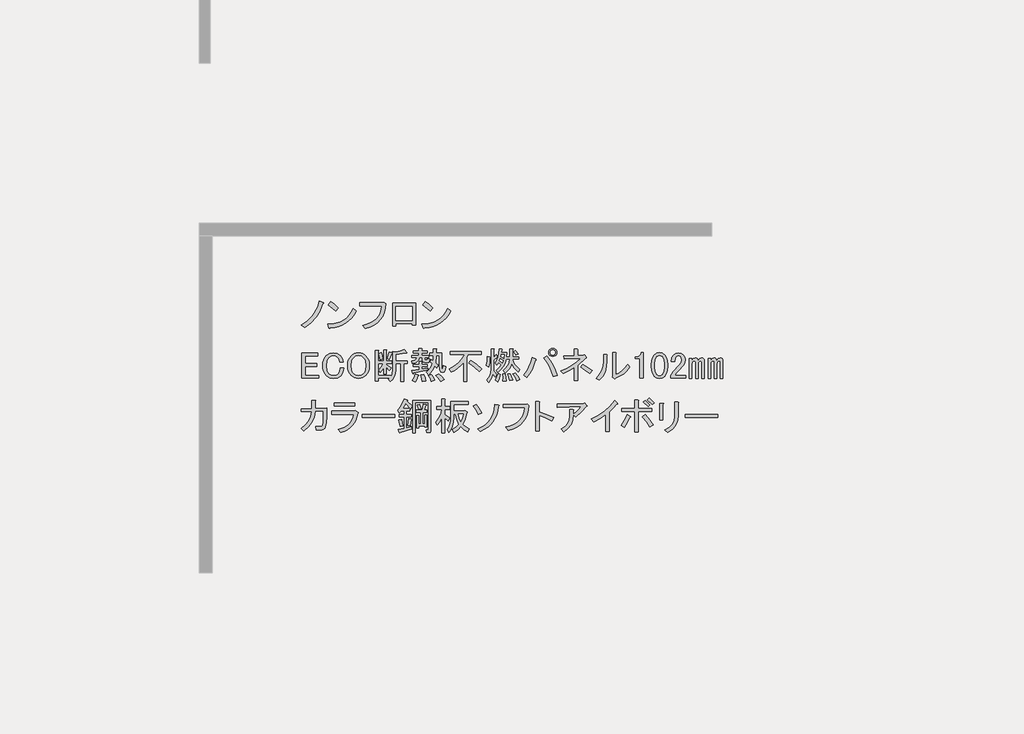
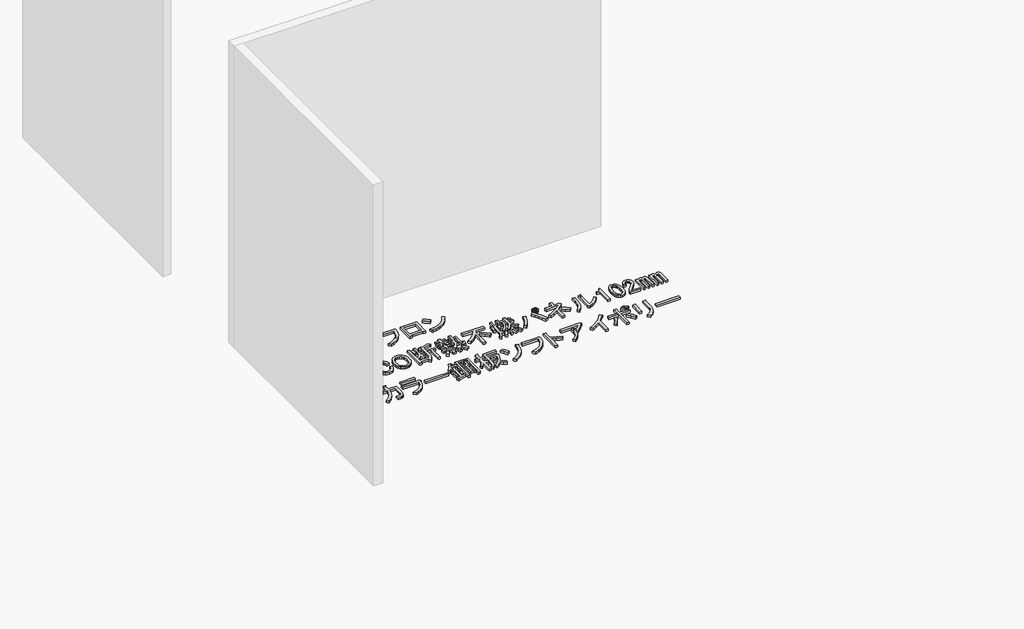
# One storey, part 50 of 117: 1 proxy.
"""IFC4 building model written with IfcOpenShell, lengths in millimetres."""

from ifc_helpers import new_model, si_unit, frame, origin, place, context, project, spatial, polyline, outline, extrude, element, save

model = new_model("IFC4")

# Units and contexts
model_context = context("Model", 3, world=origin())
ifc_project = project(units=[si_unit("LENGTHUNIT", "METRE", prefix="MILLI")], contexts=[model_context])

# Site, building, storey
site = spatial("IfcSite", under=ifc_project)
building = spatial("IfcBuilding", under=site)
storey = spatial("IfcBuildingStorey", under=building, Name="レベル 1", Elevation=500.0)

# Proxy
placement = place(None, origin())
element("IfcBuildingElementProxy", 1, Name="200㎜\u3000MS Pゴシック", ObjectType="200㎜\u3000MS Pゴシック", at=placement, inside=storey, context=model_context, shape_type="SweptSolid", body=[
    extrude(outline(polyline([(24972.6706985, -4636.0496882), (24947.0952502, -4695.8215225), (24918.646156, -4741.7998566), (24876.9782907, -4787.2034615), (24827.8389462, -4824.560858), (24800.2519457, -4802.7211493), (24847.9544673, -4772.2605029), (24887.6107805, -4733.7536481), (24904.9963381, -4709.8305462), (24920.3703435, -4681.7406577), (24933.7327969, -4649.4839827), (24945.0836981, -4613.0605212), (24976.1190736, -4626.8540214), (24979.2800841, -4631.4518548), (24972.6706985, -4636.0496882)])), frame((0.0, 0.0, 500.0), z_axis=(0.0, 0.0, 1.0), x_axis=(1.0, 0.0, 0.0)), (0.0, 0.0, 1.0), 25.0),
    extrude(outline(polyline([(25072.3977052, -4691.2236891), (25013.7753292, -4644.0958967), (25033.3161212, -4619.9572713), (25060.6157571, -4639.7854279), (25094.2374138, -4669.3839804), (25072.3977052, -4691.2236891)])), frame((0.0, 0.0, 500.0), z_axis=(0.0, 0.0, 1.0), x_axis=(1.0, 0.0, 0.0)), (0.0, 0.0, 1.0), 25.0),
    extrude(outline(polyline([(25234.4713328, -4691.2236891), (25217.947869, -4720.965924), (25198.8381239, -4746.9724192), (25177.1420975, -4769.2431748), (25152.8597898, -4787.7781907), (25125.9912008, -4802.577467), (25096.5363306, -4813.6410036), (25064.495179, -4820.9688006), (25029.8677461, -4824.560858), (25024.1204544, -4832.6070664), (25018.3731626, -4826.8597747), (25009.1774958, -4796.9738575), (25045.0082679, -4794.2977748), (25077.7857912, -4787.9937141), (25107.5100658, -4778.0616756), (25134.1810916, -4764.5016591), (25157.7988687, -4747.3136646), (25178.363397, -4726.4976923), (25195.8746766, -4702.053742), (25210.3327074, -4673.9818138), (25234.4713328, -4691.2236891)])), frame((0.0, 0.0, 500.0), z_axis=(0.0, 0.0, 1.0), x_axis=(1.0, 0.0, 0.0)), (0.0, 0.0, 1.0), 25.0),
    extrude(outline(polyline([(25285.2314136, -4806.1695243), (25319.014713, -4796.4889298), (25348.5234641, -4784.1142922), (25373.757667, -4769.0456116), (25394.7173217, -4751.282888), (25411.402428, -4730.8261214), (25423.8129862, -4707.6753118), (25431.9489961, -4681.8304591), (25435.8104577, -4653.2915635), (25263.3917049, -4653.2915635), (25263.3917049, -4628.0034798), (25438.1093744, -4628.0034798), (25454.2017914, -4624.5551047), (25466.8458332, -4636.0496882), (25463.325617, -4672.5449909), (25455.0638851, -4705.5919185), (25442.0606375, -4735.1904711), (25424.3158742, -4761.3406486), (25401.8295952, -4784.042451), (25374.6018005, -4803.2958784), (25342.6324901, -4819.1009308), (25305.921664, -4831.4576081), (25285.2314136, -4806.1695243)])), frame((0.0, 0.0, 500.0), z_axis=(0.0, 0.0, 1.0), x_axis=(1.0, 0.0, 0.0)), (0.0, 0.0, 1.0), 25.0),
    extrude(outline(polyline([(25699.955987, -4805.020066), (25673.5184449, -4805.020066), (25673.5184449, -4792.3760241), (25545.9285679, -4792.3760241), (25545.9285679, -4810.7673577), (25519.4910258, -4810.7673577), (25519.4910258, -4631.4518548), (25699.955987, -4631.4518548), (25699.955987, -4805.020066)]), holes=[polyline([(25545.9285679, -4656.7399386), (25545.9285679, -4767.0879404), (25673.5184449, -4767.0879404), (25673.5184449, -4656.7399386), (25545.9285679, -4656.7399386)])]), frame((0.0, 0.0, 500.0), z_axis=(0.0, 0.0, 1.0), x_axis=(1.0, 0.0, 0.0)), (0.0, 0.0, 1.0), 25.0),
    extrude(outline(polyline([(25976.0099049, -4691.2236891), (25959.4864411, -4720.965924), (25940.376696, -4746.9724192), (25918.6806696, -4769.2431748), (25894.3983619, -4787.7781907), (25867.5297729, -4802.577467), (25838.0749026, -4813.6410036), (25806.0337511, -4820.9688006), (25771.4063182, -4824.560858), (25765.6590264, -4832.6070664), (25759.9117347, -4826.8597747), (25750.7160679, -4796.9738575), (25786.5468399, -4794.2977748), (25819.3243633, -4787.9937141), (25849.0486378, -4778.0616756), (25875.7196637, -4764.5016591), (25899.3374407, -4747.3136646), (25919.9019691, -4726.4976923), (25937.4132486, -4702.053742), (25951.8712795, -4673.9818138), (25976.0099049, -4691.2236891)])), frame((0.0, 0.0, 500.0), z_axis=(0.0, 0.0, 1.0), x_axis=(1.0, 0.0, 0.0)), (0.0, 0.0, 1.0), 25.0),
    extrude(outline(polyline([(25813.9362772, -4691.2236891), (25755.3139013, -4644.0958967), (25774.8546933, -4619.9572713), (25802.1543291, -4639.7854279), (25835.7759859, -4669.3839804), (25813.9362772, -4691.2236891)])), frame((0.0, 0.0, 500.0), z_axis=(0.0, 0.0, 1.0), x_axis=(1.0, 0.0, 0.0)), (0.0, 0.0, 1.0), 25.0),
    extrude(outline(polyline([(24805.9992375, -5024.5551047), (24932.4396562, -5024.5551047), (24932.4396562, -5046.3948134), (24832.4367796, -5046.3948134), (24832.4367796, -5107.316106), (24925.5429061, -5107.316106), (24925.5429061, -5129.1558147), (24832.4367796, -5129.1558147), (24832.4367796, -5199.2727742), (24938.186948, -5199.2727742), (24938.186948, -5221.1124829), (24805.9992375, -5221.1124829), (24805.9992375, -5024.5551047)])), frame((0.0, 0.0, 500.0), z_axis=(0.0, 0.0, 1.0), x_axis=(1.0, 0.0, 0.0)), (0.0, 0.0, 1.0), 25.0),
    extrude(outline(polyline([(24970.2798252, -5123.408523), (24972.0758538, -5099.485421), (24977.4639399, -5078.2922827), (24986.4440832, -5059.8291079), (24999.016284, -5044.0958967), (25024.0170031, -5027.7161152), (25055.3397432, -5022.256188), (25086.0877541, -5027.141386), (25109.3642858, -5041.79698), (25125.1693381, -5065.3608762), (25131.2039944, -5094.6720642), (25103.616994, -5094.6720642), (25098.731796, -5073.4070847), (25088.6740354, -5057.8893969), (25073.4437123, -5047.5442717), (25055.3397432, -5044.0958967), (25035.7989512, -5048.1190009), (25018.5570759, -5060.1883136), (25009.5050914, -5071.8984206), (25003.0393882, -5086.3384911), (24997.8668256, -5123.408523), (25003.0393882, -5160.4785548), (25009.5050914, -5174.9186254), (25018.5570759, -5186.6287323), (25035.2242221, -5197.8359513), (25055.3397432, -5201.5716909), (25075.742629, -5198.4106804), (25090.9729521, -5188.927649), (25103.0422648, -5169.3868571), (25107.0653691, -5142.949315), (25134.6523695, -5142.949315), (25128.3303486, -5177.7204301), (25121.2899162, -5191.8731361), (25111.6632025, -5203.8706076), (25100.8151893, -5212.4197041), (25087.8119417, -5218.5262016), (25055.3397432, -5223.4113996), (25024.0170031, -5217.9514724), (24999.016284, -5201.5716909), (24986.4440832, -5185.9103209), (24977.4639399, -5167.6626695), (24972.0758538, -5146.8287369), (24970.2798252, -5123.408523)])), frame((0.0, 0.0, 500.0), z_axis=(0.0, 0.0, 1.0), x_axis=(1.0, 0.0, 0.0)), (0.0, 0.0, 1.0), 25.0),
    extrude(outline(polyline([(25165.6417667, -5122.2590646), (25167.3659542, -5099.4135799), (25172.5385168, -5079.1543764), (25181.1594544, -5061.4814543), (25193.2287671, -5046.3948134), (25205.9446501, -5035.8341648), (25219.9536738, -5028.2908443), (25235.2558381, -5023.7648521), (25251.8511431, -5022.256188), (25268.446448, -5023.7648521), (25283.7486123, -5028.2908443), (25297.757636, -5035.8341648), (25310.473519, -5046.3948134), (25322.5428317, -5061.4814543), (25331.1637694, -5079.1543764), (25336.336332, -5099.4135799), (25338.0605195, -5122.2590646), (25336.336332, -5145.1045494), (25331.1637694, -5165.3637528), (25322.5428317, -5183.036675), (25310.473519, -5198.1233159), (25297.757636, -5208.6839645), (25283.7486123, -5216.2272849), (25268.446448, -5220.7532772), (25251.8511431, -5222.2619413), (25235.2558381, -5220.7532772), (25219.9536738, -5216.2272849), (25205.9446501, -5208.6839645), (25193.2287671, -5198.1233159), (25181.1594544, -5183.036675), (25172.5385168, -5165.3637528), (25167.3659542, -5145.1045494), (25165.6417667, -5122.2590646)]), holes=[polyline([(25251.8511431, -5044.0958967), (25231.1608927, -5048.4063655), (25212.7695591, -5061.337772), (25204.2204626, -5072.4731498), (25198.1139651, -5086.3384911), (25193.2287671, -5122.2590646), (25198.1139651, -5158.1796381), (25204.2204626, -5172.0449795), (25212.7695591, -5183.1803573), (25231.1608927, -5196.1117637), (25251.8511431, -5200.4222326), (25272.5413934, -5196.1117637), (25290.932727, -5183.1803573), (25299.4818235, -5172.0449795), (25305.588321, -5158.1796381), (25310.473519, -5122.2590646), (25305.588321, -5086.3384911), (25299.4818235, -5072.4731498), (25290.932727, -5061.337772), (25272.5413934, -5048.4063655), (25251.8511431, -5044.0958967)])]), frame((0.0, 0.0, 500.0), z_axis=(0.0, 0.0, 1.0), x_axis=(1.0, 0.0, 0.0)), (0.0, 0.0, 1.0), 25.0),
    extrude(outline(polyline([(25476.8691101, -5068.2345221), (25494.1109854, -5015.3594379), (25514.8012357, -5021.1067296), (25516.5254232, -5024.2677401), (25512.502319, -5026.8540214), (25495.2604437, -5075.1312722), (25476.8691101, -5068.2345221)])), frame((0.0, 0.0, 500.0), z_axis=(0.0, 0.0, 1.0), x_axis=(1.0, 0.0, 0.0)), (0.0, 0.0, 1.0), 25.0),
    extrude(outline(polyline([(25630.8965292, -5019.9572713), (25629.1723417, -5024.5551047), (25621.7008624, -5022.256188), (25544.6871528, -5034.9002299), (25544.6871528, -5084.326939), (25636.643821, -5084.326939), (25636.643821, -5106.1666477), (25605.6084455, -5106.1666477), (25605.6084455, -5246.4005666), (25582.6192785, -5246.4005666), (25582.6192785, -5106.1666477), (25544.6871528, -5106.1666477), (25544.6871528, -5155.5933568), (25542.1008716, -5183.3958807), (25534.3420277, -5208.1810764), (25521.4106212, -5229.948944), (25503.3066522, -5248.6994833), (25486.0647769, -5229.1586914), (25496.4099021, -5219.9630245), (25406.7521506, -5219.9630245), (25406.7521506, -5241.8027332), (25383.7629836, -5241.8027332), (25383.7629836, -5002.715396), (25405.6026922, -5002.715396), (25410.4878902, -5005.0143127), (25406.7521506, -5009.6121461), (25406.7521506, -5085.4763974), (25449.2821096, -5085.4763974), (25449.2821096, -4998.1175626), (25467.6734433, -4998.1175626), (25472.5586413, -5000.4164793), (25468.8229016, -5005.0143127), (25468.8229016, -5085.4763974), (25512.502319, -5085.4763974), (25512.502319, -5103.867731), (25468.8229016, -5103.867731), (25468.8229016, -5113.0633978), (25509.0539439, -5139.5009399), (25495.2604437, -5161.3406486), (25468.8229016, -5134.9031065), (25468.8229016, -5187.7781907), (25449.2821096, -5187.7781907), (25449.2821096, -5139.5009399), (25436.0633386, -5159.3290965), (25421.6951092, -5175.1341488), (25409.0510673, -5156.7428152), (25430.890776, -5132.6041898), (25448.1326513, -5103.867731), (25406.7521506, -5103.867731), (25406.7521506, -5198.1233159), (25504.4561105, -5198.1233159), (25504.4561105, -5211.9168161), (25517.387517, -5187.7781907), (25521.6979858, -5154.4438985), (25521.6979858, -5009.6121461), (25543.5376945, -5015.3594379), (25579.7456326, -5007.8879586), (25610.2062789, -4994.6691875), (25630.8965292, -5019.9572713)])), frame((0.0, 0.0, 500.0), z_axis=(0.0, 0.0, 1.0), x_axis=(1.0, 0.0, 0.0)), (0.0, 0.0, 1.0), 25.0),
    extrude(outline(polyline([(25422.8445675, -5076.2807305), (25410.2005257, -5025.7045631), (25429.7413176, -5018.8078129), (25437.5001615, -5042.9464383), (25442.3853595, -5069.3839804), (25422.8445675, -5076.2807305)])), frame((0.0, 0.0, 500.0), z_axis=(0.0, 0.0, 1.0), x_axis=(1.0, 0.0, 0.0)), (0.0, 0.0, 1.0), 25.0),
    extrude(outline(polyline([(25766.5326148, -5192.3760241), (25776.5903754, -5219.67566), (25781.4755734, -5241.8027332), (25752.7391146, -5247.550025), (25750.1528333, -5225.9976809), (25742.3939894, -5195.8243992), (25766.5326148, -5192.3760241)])), frame((0.0, 0.0, 500.0), z_axis=(0.0, 0.0, 1.0), x_axis=(1.0, 0.0, 0.0)), (0.0, 0.0, 1.0), 25.0),
    extrude(outline(polyline([(25822.856074, -5245.2511083), (25814.522501, -5220.5377537), (25801.0163654, -5199.2727742), (25821.7066157, -5191.2265657), (25838.6611264, -5212.7789098), (25850.4430745, -5236.0554415), (25822.856074, -5245.2511083)])), frame((0.0, 0.0, 500.0), z_axis=(0.0, 0.0, 1.0), x_axis=(1.0, 0.0, 0.0)), (0.0, 0.0, 1.0), 25.0),
    extrude(outline(polyline([(25721.7037391, -5196.9738575), (25725.1521141, -5201.8590555), (25719.4048224, -5205.020066), (25709.6344264, -5230.5955143), (25698.714572, -5249.8489417), (25675.725405, -5238.3543582), (25688.3694469, -5214.790462), (25698.714572, -5187.7781907), (25721.7037391, -5196.9738575)])), frame((0.0, 0.0, 500.0), z_axis=(0.0, 0.0, 1.0), x_axis=(1.0, 0.0, 0.0)), (0.0, 0.0, 1.0), 25.0),
    extrude(outline(polyline([(25753.8885729, -5060.1883136), (25728.6004892, -5060.1883136), (25724.0026558, -5077.6457123), (25713.6575306, -5090.9363245), (25697.5651137, -5100.0601502), (25675.725405, -5105.0171893), (25671.1275716, -5085.4763974), (25696.4156553, -5076.8554597), (25703.8871346, -5069.5276627), (25707.9102388, -5060.1883136), (25672.2770299, -5060.1883136), (25672.2770299, -5041.79698), (25726.3015725, -5041.79698), (25726.3015725, -5024.5551047), (25682.6221551, -5024.5551047), (25682.6221551, -5006.1637711), (25726.3015725, -5006.1637711), (25726.3015725, -4987.7724374), (25748.1412812, -4987.7724374), (25753.0264792, -4990.0713541), (25749.2907395, -4994.6691875), (25749.2907395, -5006.1637711), (25791.8206985, -5006.1637711), (25791.8206985, -5024.5551047), (25749.2907395, -5024.5551047), (25749.2907395, -5041.79698), (25802.1658237, -5041.79698), (25802.1658237, -5060.1883136), (25773.4293649, -5060.1883136), (25773.4293649, -5072.8323555), (25774.8661878, -5078.0049181), (25779.1766567, -5079.7291056), (25789.5217818, -5079.7291056), (25793.2575215, -5076.5680951), (25792.9701569, -5067.0850637), (25812.5109489, -5069.3839804), (25809.637303, -5090.9363245), (25804.3210581, -5096.3244106), (25796.4185319, -5098.1204392), (25772.2799066, -5098.1204392), (25758.4864063, -5093.2352412), (25753.8885729, -5078.5796472), (25753.8885729, -5060.1883136)])), frame((0.0, 0.0, 500.0), z_axis=(0.0, 0.0, 1.0), x_axis=(1.0, 0.0, 0.0)), (0.0, 0.0, 1.0), 25.0),
    extrude(outline(polyline([(25884.9268251, -5042.9464383), (25863.0871164, -5042.9464383), (25858.489283, -5100.4193559), (25878.0300749, -5118.8106896), (25867.6849498, -5140.6503983), (25851.5925328, -5124.5579813), (25832.3391054, -5162.2027424), (25802.1658237, -5194.6749408), (25784.9239484, -5173.9846905), (25800.0105893, -5162.0590601), (25813.085678, -5146.9724192), (25824.1492147, -5128.7247679), (25833.2011992, -5107.316106), (25815.9593239, -5092.3731475), (25824.0055324, -5075.1312722), (25837.7990326, -5085.4763974), (25840.0979493, -5042.9464383), (25812.5109489, -5042.9464383), (25812.5109489, -5024.5551047), (25840.0979493, -5024.5551047), (25840.0979493, -4990.0713541), (25861.937658, -4990.0713541), (25866.822856, -4992.3702708), (25863.0871164, -4996.9681043), (25863.0871164, -5024.5551047), (25904.467617, -5024.5551047), (25904.467617, -5121.1096063), (25907.9159921, -5145.2482317), (25911.1488437, -5147.2597838), (25913.9506484, -5144.0987733), (25918.2611173, -5122.2590646), (25937.8019092, -5129.1558147), (25933.275917, -5155.9525626), (25925.445232, -5171.9731384), (25914.3098542, -5177.2175421), (25899.8697836, -5171.6857738), (25893.3322393, -5164.3579768), (25888.6625647, -5152.719711), (25884.9268251, -5116.5117729), (25884.9268251, -5042.9464383)])), frame((0.0, 0.0, 500.0), z_axis=(0.0, 0.0, 1.0), x_axis=(1.0, 0.0, 0.0)), (0.0, 0.0, 1.0), 25.0),
    extrude(outline(polyline([(25683.7716134, -5182.0308989), (25681.7600613, -5186.9160969), (25678.0243217, -5185.479274), (25672.2770299, -5161.3406486), (25727.4510308, -5153.2944401), (25727.4510308, -5130.3052731), (25683.7716134, -5130.3052731), (25683.7716134, -5111.9139395), (25727.4510308, -5111.9139395), (25727.4510308, -5088.9247724), (25745.8423645, -5088.9247724), (25750.7275625, -5091.2236891), (25746.9918228, -5095.8215225), (25746.9918228, -5111.9139395), (25791.8206985, -5111.9139395), (25791.8206985, -5130.3052731), (25746.9918228, -5130.3052731), (25746.9918228, -5149.8460651), (25797.5679903, -5140.6503983), (25797.5679903, -5156.7428152), (25683.7716134, -5182.0308989)])), frame((0.0, 0.0, 500.0), z_axis=(0.0, 0.0, 1.0), x_axis=(1.0, 0.0, 0.0)), (0.0, 0.0, 1.0), 25.0),
    extrude(outline(polyline([(25881.47845, -5186.6287323), (25906.1918046, -5207.8937119), (25925.1578674, -5232.6070664), (25898.7203253, -5247.550025), (25879.4668979, -5217.9514724), (25860.7881997, -5198.1233159), (25881.47845, -5186.6287323)])), frame((0.0, 0.0, 500.0), z_axis=(0.0, 0.0, 1.0), x_axis=(1.0, 0.0, 0.0)), (0.0, 0.0, 1.0), 25.0),
    extrude(outline(polyline([(26199.8784135, -5170.5363154), (26160.7968295, -5132.3168252), (26119.4163289, -5102.7182726), (26135.5087458, -5082.0280223), (26179.1881632, -5110.1897519), (26220.5686638, -5148.6966067), (26199.8784135, -5170.5363154)])), frame((0.0, 0.0, 500.0), z_axis=(0.0, 0.0, 1.0), x_axis=(1.0, 0.0, 0.0)), (0.0, 0.0, 1.0), 25.0),
    extrude(outline(polyline([(25973.4351182, -5009.6121461), (26214.8213721, -5009.6121461), (26214.8213721, -5034.9002299), (26114.8184955, -5034.9002299), (26104.4733703, -5059.0388553), (26104.4733703, -5245.2511083), (26078.0358282, -5245.2511083), (26078.0358282, -5098.1204392), (26057.2018956, -5121.3969709), (26033.7816816, -5141.7998566), (26007.7751864, -5159.3290965), (25979.1824099, -5173.9846905), (25963.089993, -5147.5471484), (26002.674465, -5127.1442626), (26036.3679629, -5101.5688143), (26064.1704868, -5070.8208034), (26086.0820367, -5034.9002299), (25973.4351182, -5034.9002299), (25973.4351182, -5009.6121461)])), frame((0.0, 0.0, 500.0), z_axis=(0.0, 0.0, 1.0), x_axis=(1.0, 0.0, 0.0)), (0.0, 0.0, 1.0), 25.0),
    extrude(outline(polyline([(26387.2401249, -5244.1016499), (26387.8148541, -5217.0893787), (26384.9412082, -5188.927649), (26404.4820002, -5187.7781907), (26410.8040211, -5213.9283682), (26411.3787503, -5241.8027332), (26387.2401249, -5244.1016499)])), frame((0.0, 0.0, 500.0), z_axis=(0.0, 0.0, 1.0), x_axis=(1.0, 0.0, 0.0)), (0.0, 0.0, 1.0), 25.0),
    extrude(outline(polyline([(26367.6993329, -5192.3760241), (26359.0783953, -5222.8366704), (26344.7101659, -5249.8489417), (26325.1693739, -5237.2048998), (26339.2502387, -5212.4915453), (26349.3079993, -5184.3298156), (26367.6993329, -5192.3760241)])), frame((0.0, 0.0, 500.0), z_axis=(0.0, 0.0, 1.0), x_axis=(1.0, 0.0, 0.0)), (0.0, 0.0, 1.0), 25.0),
    extrude(outline(polyline([(26282.6394149, -5054.4410219), (26287.2372483, -5056.7399386), (26282.6394149, -5061.337772), (26281.4899565, -5100.9940851), (26275.7426647, -5134.9031065), (26257.3513311, -5122.2590646), (26263.0986229, -5087.7753141), (26264.2480812, -5050.9926468), (26282.6394149, -5054.4410219)])), frame((0.0, 0.0, 500.0), z_axis=(0.0, 0.0, 1.0), x_axis=(1.0, 0.0, 0.0)), (0.0, 0.0, 1.0), 25.0),
    extrude(outline(polyline([(26334.3650407, -5036.0496882), (26343.5607075, -5053.2915635), (26344.9975305, -5059.3262199), (26340.1123325, -5059.0388553), (26313.6747904, -5079.7291056), (26313.6747904, -5163.6395653), (26327.4682906, -5175.9962426), (26338.9628741, -5192.3760241), (26326.3188322, -5213.0662744), (26307.9274986, -5187.7781907), (26296.1455505, -5223.6987642), (26274.5932064, -5253.2973168), (26259.6502478, -5234.9059831), (26274.7368887, -5216.1554438), (26285.5130607, -5195.5370346), (26291.978764, -5173.0507556), (26294.1339984, -5148.6966067), (26294.1339984, -4991.2208125), (26312.525332, -4991.2208125), (26317.41053, -4993.5197292), (26313.6747904, -4998.1175626), (26313.6747904, -5056.7399386), (26334.3650407, -5036.0496882)])), frame((0.0, 0.0, 500.0), z_axis=(0.0, 0.0, 1.0), x_axis=(1.0, 0.0, 0.0)), (0.0, 0.0, 1.0), 25.0),
    extrude(outline(polyline([(26484.9440848, -5005.0143127), (26506.7837935, -5029.1529381), (26489.5419182, -5040.6475216), (26482.9325327, -5029.1529381), (26470.0011262, -5015.3594379), (26484.9440848, -5005.0143127)])), frame((0.0, 0.0, 500.0), z_axis=(0.0, 0.0, 1.0), x_axis=(1.0, 0.0, 0.0)), (0.0, 0.0, 1.0), 25.0),
    extrude(outline(polyline([(26495.28921, -5241.8027332), (26482.0704389, -5213.6410036), (26465.4032928, -5188.927649), (26483.7946265, -5180.8814406), (26502.7606893, -5203.8706076), (26518.278377, -5231.4576081), (26495.28921, -5241.8027332)])), frame((0.0, 0.0, 500.0), z_axis=(0.0, 0.0, 1.0), x_axis=(1.0, 0.0, 0.0)), (0.0, 0.0, 1.0), 25.0),
    extrude(outline(polyline([(26445.8625008, -5186.6287323), (26464.2538345, -5236.0554415), (26440.1152091, -5240.6532749), (26426.3217089, -5190.0771074), (26445.8625008, -5186.6287323)])), frame((0.0, 0.0, 500.0), z_axis=(0.0, 0.0, 1.0), x_axis=(1.0, 0.0, 0.0)), (0.0, 0.0, 1.0), 25.0),
    extrude(outline(polyline([(26506.7837935, -5171.6857738), (26476.0357826, -5141.2251274), (26455.0581677, -5107.316106), (26446.6527535, -5129.4431793), (26435.2300111, -5148.6966067), (26420.7899405, -5165.0763882), (26403.3325418, -5178.5825239), (26389.5390416, -5160.1911902), (26410.3729742, -5141.2969686), (26425.7469797, -5120.2475125), (26435.661058, -5097.042822), (26440.1152091, -5071.6828971), (26411.3787503, -5071.6828971), (26403.404383, -5102.2872258), (26389.8264062, -5129.7305439), (26370.6448199, -5154.0128516), (26345.8596242, -5175.1341488), (26333.2155823, -5159.0417319), (26359.0783953, -5137.4893878), (26374.596083, -5116.5117729), (26352.7563743, -5096.9709809), (26338.9628741, -5117.6612312), (26325.1693739, -5102.7182726), (26337.5978923, -5083.6803687), (26347.2964472, -5058.7514907), (26354.2650384, -5027.9316386), (26358.5036661, -4991.2208125), (26379.1939164, -4993.5197292), (26382.6422915, -4996.1060105), (26376.8949997, -4999.267021), (26374.596083, -5017.6583546), (26418.2755004, -5017.6583546), (26414.8271253, -5053.2915635), (26440.1152091, -5053.2915635), (26440.1152091, -4991.2208125), (26461.9549178, -4991.2208125), (26466.8401158, -4993.5197292), (26463.1043761, -4998.1175626), (26463.1043761, -5053.2915635), (26512.5310853, -5053.2915635), (26512.5310853, -5071.6828971), (26463.1043761, -5071.6828971), (26469.6419205, -5093.4507647), (26481.2083452, -5113.9254916), (26497.8036501, -5133.1070778), (26519.4278354, -5150.9955234), (26506.7837935, -5171.6857738)]), holes=[polyline([(26382.6422915, -5101.5688143), (26389.5390416, -5082.0280223), (26364.2509579, -5065.9356054), (26358.5036661, -5083.1774807), (26382.6422915, -5101.5688143)]), polyline([(26372.2971663, -5036.0496882), (26368.8487913, -5052.1421052), (26394.136875, -5065.9356054), (26398.7347084, -5036.0496882), (26372.2971663, -5036.0496882)])]), frame((0.0, 0.0, 500.0), z_axis=(0.0, 0.0, 1.0), x_axis=(1.0, 0.0, 0.0)), (0.0, 0.0, 1.0), 25.0),
    extrude(outline(polyline([(26732.0776305, -5045.245355), (26758.730696, -5081.9561812), (26781.2169751, -5119.6727833), (26799.5364675, -5158.3951616), (26813.6891735, -5198.1233159), (26782.653798, -5208.468441), (26767.2079514, -5165.3637528), (26749.6068704, -5126.856898), (26729.850555, -5092.9478766), (26707.9390051, -5063.6366887), (26732.0776305, -5045.245355)])), frame((0.0, 0.0, 500.0), z_axis=(0.0, 0.0, 1.0), x_axis=(1.0, 0.0, 0.0)), (0.0, 0.0, 1.0), 25.0),
    extrude(outline(polyline([(26644.7187958, -5071.6828971), (26648.7419, -5077.1428243), (26642.419879, -5082.0280223), (26630.4942486, -5117.4457078), (26615.4076078, -5151.282888), (26597.1599564, -5183.539563), (26575.7512946, -5214.2157328), (26549.3137525, -5196.9738575), (26572.518443, -5165.5074351), (26591.556347, -5132.0294606), (26606.4274644, -5096.539934), (26617.1317953, -5059.0388553), (26644.7187958, -5071.6828971)])), frame((0.0, 0.0, 500.0), z_axis=(0.0, 0.0, 1.0), x_axis=(1.0, 0.0, 0.0)), (0.0, 0.0, 1.0), 25.0),
    extrude(outline(polyline([(26778.0559646, -5050.9926468), (26765.4119227, -5048.6937301), (26755.0667975, -5041.79698), (26748.1700474, -5031.4518548), (26745.8711307, -5018.8078129), (26748.1700474, -5006.1637711), (26755.0667975, -4995.8186459), (26765.4119227, -4988.9218958), (26778.0559646, -4986.6229791), (26790.7000065, -4988.9218958), (26801.0451316, -4995.8186459), (26807.9418817, -5006.1637711), (26810.2407984, -5018.8078129), (26807.9418817, -5031.4518548), (26801.0451316, -5041.79698), (26790.7000065, -5048.6937301), (26778.0559646, -5050.9926468)]), holes=[polyline([(26778.0559646, -5039.4980633), (26786.3895376, -5038.0612403), (26792.9989232, -5033.7507715), (26797.309392, -5027.141386), (26798.7462149, -5018.8078129), (26797.309392, -5010.4742399), (26792.9989232, -5003.8648544), (26786.3895376, -4999.5543855), (26778.0559646, -4998.1175626), (26769.7223915, -4999.5543855), (26763.113006, -5003.8648544), (26758.8025372, -5010.4742399), (26757.3657143, -5018.8078129), (26758.8025372, -5027.141386), (26763.113006, -5033.7507715), (26769.7223915, -5038.0612403), (26778.0559646, -5039.4980633)])]), frame((0.0, 0.0, 500.0), z_axis=(0.0, 0.0, 1.0), x_axis=(1.0, 0.0, 0.0)), (0.0, 0.0, 1.0), 25.0),
    extrude(outline(polyline([(27021.7411352, -5040.6475216), (27028.6378853, -5038.3486049), (27041.2819272, -5055.5904802), (27042.4313856, -5061.6251366), (27036.6840938, -5063.6366887), (26973.4638844, -5119.9601479), (26973.4638844, -5240.6532749), (26947.0263423, -5240.6532749), (26947.0263423, -5138.3514816), (26906.7953, -5162.4901069), (26861.9664243, -5184.3298156), (26842.4256323, -5163.6395653), (26887.9729195, -5144.1706145), (26929.2097379, -5121.3969709), (26966.1360874, -5095.3186345), (26998.7519682, -5065.9356054), (26868.8631744, -5071.6828971), (26865.4147993, -5046.3948134), (26947.0263423, -5044.0958967), (26947.0263423, -4992.3702708), (26970.0155094, -4992.3702708), (26976.0501657, -4995.8186459), (26973.4638844, -5001.5659377), (26973.4638844, -5042.9464383), (27021.7411352, -5040.6475216)])), frame((0.0, 0.0, 500.0), z_axis=(0.0, 0.0, 1.0), x_axis=(1.0, 0.0, 0.0)), (0.0, 0.0, 1.0), 25.0),
    extrude(outline(polyline([(27067.7194693, -5184.3298156), (27030.6494375, -5155.0186277), (26997.6025098, -5133.7536481), (27014.8443851, -5111.9139395), (27053.6386045, -5135.1904711), (27087.2602613, -5161.3406486), (27067.7194693, -5184.3298156)])), frame((0.0, 0.0, 500.0), z_axis=(0.0, 0.0, 1.0), x_axis=(1.0, 0.0, 0.0)), (0.0, 0.0, 1.0), 25.0),
    extrude(outline(polyline([(27274.7139293, -5191.2265657), (27299.4991251, -5179.0135708), (27323.2785447, -5161.9153778), (27346.0521883, -5139.9319868), (27367.8200559, -5113.0633978), (27383.9124728, -5134.9031065), (27360.6359412, -5162.7056304), (27334.4857636, -5186.3413678), (27305.4619403, -5205.8103186), (27273.564471, -5221.1124829), (27264.3688042, -5225.7103163), (27245.9774705, -5211.9168161), (27248.2763872, -5206.1695243), (27248.2763872, -5021.1067296), (27272.4150126, -5021.1067296), (27278.1623044, -5024.5551047), (27274.7139293, -5030.3023965), (27274.7139293, -5191.2265657)])), frame((0.0, 0.0, 500.0), z_axis=(0.0, 0.0, 1.0), x_axis=(1.0, 0.0, 0.0)), (0.0, 0.0, 1.0), 25.0),
    extrude(outline(polyline([(27120.6865102, -5222.2619413), (27145.8309116, -5193.0225944), (27163.7911984, -5160.4785548), (27174.5673704, -5124.6298225), (27178.1594278, -5085.4763974), (27178.1594278, -5033.7507715), (27202.2980532, -5033.7507715), (27208.0453449, -5037.1991466), (27204.5969699, -5042.9464383), (27204.5969699, -5084.326939), (27200.7893891, -5130.0897496), (27189.3666467, -5170.82368), (27170.3287427, -5206.5287301), (27143.6756772, -5237.2048998), (27120.6865102, -5222.2619413)])), frame((0.0, 0.0, 500.0), z_axis=(0.0, 0.0, 1.0), x_axis=(1.0, 0.0, 0.0)), (0.0, 0.0, 1.0), 25.0),
    extrude(outline(polyline([(27463.2250991, -5044.0958967), (27471.2713075, -5033.1760423), (27474.7196826, -5021.1067296), (27488.5131828, -5021.1067296), (27488.5131828, -5219.9630245), (27462.0756407, -5219.9630245), (27462.0756407, -5067.0850637), (27427.5918902, -5067.0850637), (27427.5918902, -5053.2915635), (27437.9370153, -5053.2915635), (27452.3052447, -5050.9926468), (27463.2250991, -5044.0958967)])), frame((0.0, 0.0, 500.0), z_axis=(0.0, 0.0, 1.0), x_axis=(1.0, 0.0, 0.0)), (0.0, 0.0, 1.0), 25.0),
    extrude(outline(polyline([(27554.0323089, -5110.7644811), (27555.4691318, -5087.2005849), (27559.7796006, -5067.0850637), (27566.9637153, -5050.4179176), (27577.0214759, -5037.1991466), (27595.125445, -5025.1298339), (27617.2525182, -5021.1067296), (27639.3795915, -5025.1298339), (27657.4835606, -5037.1991466), (27667.5413212, -5050.4179176), (27674.7254359, -5067.0850637), (27679.0359047, -5087.2005849), (27680.4727276, -5110.7644811), (27680.4727276, -5133.7536481), (27679.0359047, -5156.8146563), (27674.7254359, -5176.5709718), (27667.5413212, -5193.0225944), (27657.4835606, -5206.1695243), (27639.3795915, -5218.238837), (27617.2525182, -5222.2619413), (27595.125445, -5218.238837), (27577.0214759, -5206.1695243), (27566.9637153, -5193.0225944), (27559.7796006, -5176.5709718), (27555.4691318, -5156.8146563), (27554.0323089, -5133.7536481), (27554.0323089, -5110.7644811)]), holes=[polyline([(27617.2525182, -5042.9464383), (27606.3326639, -5045.245355), (27596.5622679, -5052.1421052), (27590.0247235, -5061.2659308), (27585.355049, -5073.6944493), (27581.6193093, -5108.4655644), (27581.6193093, -5134.9031065), (27585.6424136, -5169.0994925), (27590.6712939, -5181.6716932), (27597.7117263, -5191.2265657), (27607.1947577, -5198.1233159), (27617.2525182, -5200.4222326), (27628.1723726, -5198.1233159), (27637.9427686, -5191.2265657), (27644.480313, -5182.1027401), (27649.1499875, -5169.6742216), (27652.8857272, -5134.9031065), (27652.8857272, -5108.4655644), (27649.1499875, -5073.6944493), (27644.480313, -5061.2659308), (27637.9427686, -5052.1421052), (27628.1723726, -5045.245355), (27617.2525182, -5042.9464383)])]), frame((0.0, 0.0, 500.0), z_axis=(0.0, 0.0, 1.0), x_axis=(1.0, 0.0, 0.0)), (0.0, 0.0, 1.0), 25.0),
    extrude(outline(polyline([(27710.3586448, -5091.2236891), (27714.9564782, -5059.900949), (27728.7499784, -5037.1991466), (27745.1297599, -5025.9919276), (27764.3831873, -5022.256188), (27787.0849898, -5025.9919276), (27804.6142296, -5037.1991466), (27815.8214486, -5053.8662927), (27819.5571882, -5073.9818138), (27815.2467194, -5099.8446268), (27802.3153129, -5122.2590646), (27768.9810207, -5160.1911902), (27750.5896871, -5180.8814406), (27736.7961869, -5199.2727742), (27823.0055633, -5199.2727742), (27823.0055633, -5221.1124829), (27705.7608114, -5221.1124829), (27705.7608114, -5201.5716909), (27711.7954677, -5187.7781907), (27725.3016033, -5169.3868571), (27772.4293958, -5117.6612312), (27787.0849898, -5096.3962517), (27791.9701878, -5073.9818138), (27789.6712711, -5061.337772), (27782.7745209, -5050.9926468), (27775.0156771, -5045.8200842), (27765.5326457, -5044.0958967), (27756.911708, -5045.8200842), (27749.4402287, -5050.9926468), (27739.9571973, -5067.3724283), (27736.7961869, -5091.2236891), (27710.3586448, -5091.2236891)])), frame((0.0, 0.0, 500.0), z_axis=(0.0, 0.0, 1.0), x_axis=(1.0, 0.0, 0.0)), (0.0, 0.0, 1.0), 25.0),
    extrude(outline(polyline([(27872.4322724, -5222.2619413), (27852.8914804, -5222.2619413), (27852.8914804, -5064.786147), (27872.4322724, -5064.786147), (27872.4322724, -5082.0280223), (27884.5015851, -5066.5103346), (27897.7203561, -5061.337772), (27906.916023, -5062.7745949), (27913.8127731, -5067.0850637), (27920.7095232, -5080.878564), (27933.6409296, -5066.22297), (27947.1470653, -5061.337772), (27955.4806383, -5062.7745949), (27962.0900239, -5067.0850637), (27967.2625864, -5075.7060014), (27968.986774, -5087.7753141), (27968.986774, -5222.2619413), (27949.445982, -5222.2619413), (27949.445982, -5098.1204392), (27946.8597007, -5088.6374078), (27939.1008568, -5085.4763974), (27928.7557317, -5090.0742308), (27922.7210753, -5098.6951684), (27920.7095232, -5108.4655644), (27920.7095232, -5222.2619413), (27901.1687312, -5222.2619413), (27901.1687312, -5098.1204392), (27898.5824499, -5088.6374078), (27890.823606, -5085.4763974), (27880.4784809, -5090.0742308), (27874.4438245, -5098.6951684), (27872.4322724, -5108.4655644), (27872.4322724, -5222.2619413)])), frame((0.0, 0.0, 500.0), z_axis=(0.0, 0.0, 1.0), x_axis=(1.0, 0.0, 0.0)), (0.0, 0.0, 1.0), 25.0),
    extrude(outline(polyline([(28094.2777343, -5061.337772), (28102.6113074, -5062.7745949), (28109.2206929, -5067.0850637), (28114.3932555, -5075.7060014), (28116.117443, -5087.7753141), (28116.117443, -5222.2619413), (28096.5766511, -5222.2619413), (28096.5766511, -5098.1204392), (28093.9903698, -5088.6374078), (28086.2315259, -5085.4763974), (28075.8864007, -5090.0742308), (28069.8517444, -5098.6951684), (28067.8401922, -5108.4655644), (28067.8401922, -5222.2619413), (28048.2994003, -5222.2619413), (28048.2994003, -5098.1204392), (28045.713119, -5088.6374078), (28037.9542751, -5085.4763974), (28027.6091499, -5090.0742308), (28021.5744936, -5098.6951684), (28019.5629415, -5108.4655644), (28019.5629415, -5222.2619413), (28000.0221495, -5222.2619413), (28000.0221495, -5064.786147), (28019.5629415, -5064.786147), (28019.5629415, -5082.0280223), (28031.6322542, -5066.5103346), (28044.8510252, -5061.337772), (28054.046692, -5062.7745949), (28060.9434421, -5067.0850637), (28067.8401922, -5080.878564), (28080.7715987, -5066.22297), (28094.2777343, -5061.337772)])), frame((0.0, 0.0, 500.0), z_axis=(0.0, 0.0, 1.0), x_axis=(1.0, 0.0, 0.0)), (0.0, 0.0, 1.0), 25.0),
    extrude(outline(polyline([(24976.1190736, -5479.7291056), (24910.5999475, -5482.0280223), (24902.3382156, -5528.293721), (24884.44977, -5569.3868571), (24856.9346107, -5605.3074306), (24819.7927377, -5636.0554415), (24800.2519457, -5616.5146495), (24835.2385843, -5588.2810787), (24860.8858738, -5556.4554506), (24877.1938142, -5521.0377651), (24884.1624054, -5482.0280223), (24802.5508624, -5484.326939), (24800.2519457, -5461.337772), (24885.3118638, -5459.0388553), (24885.3118638, -5394.6691875), (24909.4504892, -5394.6691875), (24916.3472393, -5398.1175626), (24911.7494059, -5403.8648544), (24911.7494059, -5459.0388553), (25002.5566157, -5455.5904802), (25002.5566157, -5526.856898), (24999.9703344, -5574.8467842), (24992.2114905, -5606.1695243), (24985.602105, -5616.2272849), (24976.1190736, -5623.4113996), (24963.7623963, -5627.7218684), (24948.5320731, -5629.1586914), (24920.9450727, -5629.1586914), (24917.4966976, -5600.4222326), (24947.3826148, -5602.7211493), (24961.4634796, -5599.8475034), (24969.2223235, -5591.2265657), (24974.3948861, -5565.938482), (24976.1190736, -5526.856898), (24976.1190736, -5479.7291056)])), frame((0.0, 0.0, 500.0), z_axis=(0.0, 0.0, 1.0), x_axis=(1.0, 0.0, 0.0)), (0.0, 0.0, 1.0), 25.0),
    extrude(outline(polyline([(25220.8617459, -5439.4980633), (25062.2364933, -5439.4980633), (25062.2364933, -5414.2099795), (25220.8617459, -5414.2099795), (25220.8617459, -5439.4980633)])), frame((0.0, 0.0, 500.0), z_axis=(0.0, 0.0, 1.0), x_axis=(1.0, 0.0, 0.0)), (0.0, 0.0, 1.0), 25.0),
    extrude(outline(polyline([(25090.9729521, -5625.7103163), (25140.6151847, -5607.3908238), (25160.8564279, -5595.2676303), (25178.0444223, -5581.1688052), (25192.179168, -5565.0943485), (25203.2606649, -5547.0442603), (25211.2889131, -5527.0185406), (25216.2639125, -5505.0171893), (25041.546243, -5505.0171893), (25041.546243, -5479.7291056), (25217.4133709, -5479.7291056), (25227.758496, -5476.2807305), (25248.4487464, -5488.9247724), (25251.3223922, -5494.3846996), (25246.1498297, -5499.2698976), (25240.0253719, -5526.7491363), (25230.8476653, -5551.7139349), (25218.6167101, -5574.1642933), (25203.332506, -5594.1002116), (25184.9950533, -5611.5216898), (25163.6043517, -5626.4287278), (25139.1604015, -5638.8213256), (25111.6632025, -5648.6994833), (25090.9729521, -5625.7103163)])), frame((0.0, 0.0, 500.0), z_axis=(0.0, 0.0, 1.0), x_axis=(1.0, 0.0, 0.0)), (0.0, 0.0, 1.0), 25.0),
    extrude(outline(polyline([(25279.8979269, -5530.3052731), (25279.8979269, -5505.0171893), (25536.2271394, -5505.0171893), (25536.2271394, -5530.3052731), (25279.8979269, -5530.3052731)])), frame((0.0, 0.0, 500.0), z_axis=(0.0, 0.0, 1.0), x_axis=(1.0, 0.0, 0.0)), (0.0, 0.0, 1.0), 25.0),
    extrude(outline(polyline([(25731.3591892, -5426.8540214), (25738.5433039, -5442.0843446), (25744.0032311, -5462.4872303), (25726.7613558, -5468.2345221), (25715.2667723, -5431.4518548), (25731.3591892, -5426.8540214)])), frame((0.0, 0.0, 500.0), z_axis=(0.0, 0.0, 1.0), x_axis=(1.0, 0.0, 0.0)), (0.0, 0.0, 1.0), 25.0),
    extrude(outline(polyline([(25784.2342734, -5428.0034798), (25786.8205547, -5431.4518548), (25780.7858984, -5434.9002299), (25768.1418565, -5472.8323555), (25788.8321068, -5472.8323555), (25788.8321068, -5491.2236891), (25757.7967313, -5491.2236891), (25757.7967313, -5579.7319822), (25772.7396899, -5579.7319822), (25772.7396899, -5511.9139395), (25788.8321068, -5511.9139395), (25788.8321068, -5606.1695243), (25772.7396899, -5606.1695243), (25772.7396899, -5598.1233159), (25726.7613558, -5598.1233159), (25726.7613558, -5610.7673577), (25710.6689389, -5610.7673577), (25710.6689389, -5514.2128562), (25726.7613558, -5514.2128562), (25726.7613558, -5579.7319822), (25741.7043144, -5579.7319822), (25741.7043144, -5491.2236891), (25706.0711055, -5491.2236891), (25706.0711055, -5472.8323555), (25752.0494396, -5472.8323555), (25762.3945647, -5423.4056463), (25784.2342734, -5428.0034798)])), frame((0.0, 0.0, 500.0), z_axis=(0.0, 0.0, 1.0), x_axis=(1.0, 0.0, 0.0)), (0.0, 0.0, 1.0), 25.0),
    extrude(outline(polyline([(25678.484105, -5394.6691875), (25818.718024, -5394.6691875), (25818.718024, -5634.9059831), (25814.9822843, -5646.1132021), (25803.7750654, -5649.8489417), (25787.6826485, -5649.8489417), (25783.0848151, -5628.009233), (25794.5793986, -5628.009233), (25798.0277736, -5626.8597747), (25799.177232, -5623.4113996), (25799.177232, -5413.0605212), (25698.024897, -5413.0605212), (25698.024897, -5652.1478584), (25678.484105, -5652.1478584), (25678.484105, -5394.6691875)])), frame((0.0, 0.0, 500.0), z_axis=(0.0, 0.0, 1.0), x_axis=(1.0, 0.0, 0.0)), (0.0, 0.0, 1.0), 25.0),
    extrude(outline(polyline([(25666.9895215, -5542.949315), (25669.5758028, -5546.1103254), (25665.8400632, -5548.6966067), (25657.7938547, -5595.8243992), (25639.4025211, -5593.5254825), (25645.1498128, -5539.5009399), (25666.9895215, -5542.949315)])), frame((0.0, 0.0, 500.0), z_axis=(0.0, 0.0, 1.0), x_axis=(1.0, 0.0, 0.0)), (0.0, 0.0, 1.0), 25.0),
    extrude(outline(polyline([(25589.9758119, -5544.0987733), (25601.4703954, -5595.8243992), (25580.7801451, -5601.5716909), (25569.2855616, -5549.8460651), (25589.9758119, -5544.0987733)])), frame((0.0, 0.0, 500.0), z_axis=(0.0, 0.0, 1.0), x_axis=(1.0, 0.0, 0.0)), (0.0, 0.0, 1.0), 25.0),
    extrude(outline(polyline([(25663.5411464, -5463.6366887), (25622.1606458, -5419.9572713), (25600.3209371, -5459.0388553), (25655.494938, -5459.0388553), (25655.494938, -5477.4301889), (25629.0573959, -5477.4301889), (25629.0573959, -5506.1666477), (25666.9895215, -5506.1666477), (25666.9895215, -5524.5579813), (25629.0573959, -5524.5579813), (25629.0573959, -5611.9168161), (25668.1389799, -5601.5716909), (25670.4378966, -5621.1124829), (25578.4812284, -5646.4005666), (25576.1823117, -5652.1478584), (25571.5844783, -5648.6994833), (25564.6877282, -5625.7103163), (25609.5166039, -5616.5146495), (25609.5166039, -5524.5579813), (25571.5844783, -5524.5579813), (25571.5844783, -5506.1666477), (25609.5166039, -5506.1666477), (25609.5166039, -5477.4301889), (25587.6768952, -5477.4301889), (25572.7339366, -5495.8215225), (25560.0898948, -5475.1312722), (25588.2516244, -5437.4865112), (25612.964979, -5386.6229791), (25634.8046876, -5392.3702708), (25638.2530627, -5396.1060105), (25632.5057709, -5398.1175626), (25631.3563126, -5401.5659377), (25676.1851883, -5439.4980633), (25663.5411464, -5463.6366887)])), frame((0.0, 0.0, 500.0), z_axis=(0.0, 0.0, 1.0), x_axis=(1.0, 0.0, 0.0)), (0.0, 0.0, 1.0), 25.0),
    extrude(outline(polyline([(25989.9873184, -5623.4113996), (26018.7237772, -5606.1695243), (26040.5634859, -5584.3298156), (26022.7468815, -5542.3745858), (26012.9764855, -5501.5688143), (26000.3324436, -5501.5688143), (26000.3324436, -5525.7074397), (25997.8898446, -5567.4471461), (25990.5620476, -5601.8590555), (25978.3490526, -5628.9431679), (25961.2508596, -5648.6994833), (25947.4573594, -5625.7103163), (25960.5324482, -5608.3247587), (25969.8717973, -5586.0540032), (25975.4754067, -5558.8980496), (25977.3432766, -5526.856898), (25977.3432766, -5406.1637711), (26114.1288204, -5406.1637711), (26114.1288204, -5428.0034798), (26000.3324436, -5428.0034798), (26000.3324436, -5479.7291056), (26079.6450699, -5479.7291056), (26085.3923616, -5473.9818138), (26104.9331536, -5487.7753141), (26106.3699766, -5491.5110537), (26101.4847786, -5495.8215225), (26089.1281013, -5542.3745858), (26070.4494031, -5583.1803573), (26089.4154659, -5601.5716909), (26121.0255706, -5619.9630245), (26111.8299037, -5644.1016499), (26083.9555387, -5628.009233), (26055.5064445, -5602.7211493), (26031.0804545, -5627.1471392), (25999.1829852, -5647.550025), (25989.9873184, -5623.4113996)]), holes=[polyline([(26034.8161942, -5501.5688143), (26042.8624026, -5534.6157419), (26055.5064445, -5562.4901069), (26068.1504864, -5536.3399294), (26076.1966948, -5501.5688143), (26034.8161942, -5501.5688143)])]), frame((0.0, 0.0, 500.0), z_axis=(0.0, 0.0, 1.0), x_axis=(1.0, 0.0, 0.0)), (0.0, 0.0, 1.0), 25.0),
    extrude(outline(polyline([(25907.2263171, -5652.1478584), (25907.2263171, -5532.6041898), (25889.4097126, -5566.8005758), (25870.4436498, -5588.927649), (25858.9490663, -5568.2373987), (25876.1909416, -5545.5355963), (25889.9844418, -5521.1096063), (25900.329567, -5494.9594288), (25907.2263171, -5467.0850637), (25865.8458164, -5467.0850637), (25865.8458164, -5445.245355), (25907.2263171, -5445.245355), (25907.2263171, -5385.4735207), (25929.0660258, -5385.4735207), (25933.9512238, -5387.7724374), (25930.2154841, -5392.3702708), (25930.2154841, -5445.245355), (25968.1476097, -5445.245355), (25968.1476097, -5467.0850637), (25930.2154841, -5467.0850637), (25930.2154841, -5507.316106), (25968.1476097, -5533.7536481), (25957.8024846, -5556.7428152), (25930.2154841, -5533.7536481), (25930.2154841, -5652.1478584), (25907.2263171, -5652.1478584)])), frame((0.0, 0.0, 500.0), z_axis=(0.0, 0.0, 1.0), x_axis=(1.0, 0.0, 0.0)), (0.0, 0.0, 1.0), 25.0),
    extrude(outline(polyline([(26287.6970316, -5546.39769), (26299.8381855, -5525.5637574), (26309.8241049, -5498.6951684), (26317.6547899, -5465.7919231), (26323.3302405, -5426.8540214), (26352.0666993, -5431.4518548), (26356.9518973, -5435.1875945), (26350.917241, -5441.79698), (26345.6728372, -5477.1428243), (26336.8363762, -5509.6150228), (26324.4078577, -5539.2135753), (26308.3872819, -5565.938482), (26292.294865, -5584.9045448), (26270.4551563, -5603.8706076), (26209.5338637, -5641.8027332), (26188.8436133, -5621.1124829), (26219.5916242, -5605.2355894), (26246.3165309, -5587.4908261), (26269.0183334, -5567.878193), (26287.6970316, -5546.39769)])), frame((0.0, 0.0, 500.0), z_axis=(0.0, 0.0, 1.0), x_axis=(1.0, 0.0, 0.0)), (0.0, 0.0, 1.0), 25.0),
    extrude(outline(polyline([(26193.4414467, -5508.4655644), (26173.038561, -5469.0966158), (26153.2104044, -5440.6475216), (26178.4984882, -5426.8540214), (26198.6140093, -5455.5904802), (26219.8789888, -5493.5226058), (26193.4414467, -5508.4655644)])), frame((0.0, 0.0, 500.0), z_axis=(0.0, 0.0, 1.0), x_axis=(1.0, 0.0, 0.0)), (0.0, 0.0, 1.0), 25.0),
    extrude(outline(polyline([(26409.3097253, -5606.1695243), (26443.0930246, -5596.4889298), (26472.6017758, -5584.1142922), (26497.8359786, -5569.0456116), (26518.7956333, -5551.282888), (26535.4807397, -5530.8261214), (26547.8912978, -5507.6753118), (26556.0273077, -5481.8304591), (26559.8887694, -5453.2915635), (26387.4700166, -5453.2915635), (26387.4700166, -5428.0034798), (26562.1876861, -5428.0034798), (26578.280103, -5424.5551047), (26590.9241449, -5436.0496882), (26587.4039287, -5472.5449909), (26579.1421968, -5505.5919185), (26566.1389492, -5535.1904711), (26548.3941859, -5561.3406486), (26525.9079068, -5584.042451), (26498.6801121, -5603.2958784), (26466.7108017, -5619.1009308), (26429.9999756, -5631.4576081), (26409.3097253, -5606.1695243)])), frame((0.0, 0.0, 500.0), z_axis=(0.0, 0.0, 1.0), x_axis=(1.0, 0.0, 0.0)), (0.0, 0.0, 1.0), 25.0),
    extrude(outline(polyline([(26671.1563378, -5486.6258557), (26727.7671617, -5505.5919185), (26784.9527147, -5530.3052731), (26771.1592145, -5556.7428152), (26715.697849, -5530.8800023), (26671.1563378, -5515.3623145), (26671.1563378, -5634.9059831), (26644.7187958, -5634.9059831), (26644.7187958, -5405.0143127), (26667.7079628, -5405.0143127), (26675.4668067, -5407.8879586), (26671.1563378, -5414.2099795), (26671.1563378, -5486.6258557)])), frame((0.0, 0.0, 500.0), z_axis=(0.0, 0.0, 1.0), x_axis=(1.0, 0.0, 0.0)), (0.0, 0.0, 1.0), 25.0),
    extrude(outline(polyline([(26939.4399172, -5507.316106), (26935.6323364, -5548.5529244), (26921.9106773, -5584.9045448), (26898.27494, -5616.3709672), (26864.7251243, -5642.9521916), (26845.1843323, -5621.1124829), (26874.8547261, -5600.8532794), (26896.0478644, -5576.8583363), (26908.7637474, -5549.1276536), (26913.0023751, -5517.6612312), (26913.0023751, -5468.2345221), (26937.1410005, -5468.2345221), (26942.8882923, -5470.8208034), (26939.4399172, -5476.2807305), (26939.4399172, -5506.1666477), (26975.9352199, -5475.4186368), (27002.6601266, -5445.245355), (26815.2984152, -5452.1421052), (26812.9994985, -5425.7045631), (27022.2009186, -5419.9572713), (27030.247127, -5417.6583546), (27047.4890023, -5438.3486049), (27047.7763669, -5441.5096154), (27041.7417105, -5441.79698), (27003.8095849, -5485.1890328), (26958.9807092, -5525.7074397), (26939.4399172, -5507.316106)])), frame((0.0, 0.0, 500.0), z_axis=(0.0, 0.0, 1.0), x_axis=(1.0, 0.0, 0.0)), (0.0, 0.0, 1.0), 25.0),
    extrude(outline(polyline([(27081.2830779, -5540.6503983), (27137.9657428, -5512.7760332), (27187.3206108, -5479.7291056), (27229.3476818, -5441.5096154), (27264.0469558, -5398.1175626), (27285.8866645, -5416.5088962), (27288.4729458, -5422.5435526), (27277.8404561, -5426.8540214), (27252.8397369, -5455.8778448), (27221.5169968, -5485.4763974), (27221.5169968, -5641.8027332), (27195.0794547, -5641.8027332), (27195.0794547, -5507.316106), (27151.4000373, -5536.9146586), (27100.8238698, -5563.6395653), (27081.2830779, -5540.6503983)])), frame((0.0, 0.0, 500.0), z_axis=(0.0, 0.0, 1.0), x_axis=(1.0, 0.0, 0.0)), (0.0, 0.0, 1.0), 25.0),
    extrude(outline(polyline([(27505.3412531, -5507.316106), (27541.5491912, -5549.2713359), (27567.4120041, -5587.7781907), (27542.1239204, -5605.020066), (27515.3990137, -5563.9269299), (27483.5015444, -5525.7074397), (27505.3412531, -5507.316106)])), frame((0.0, 0.0, 500.0), z_axis=(0.0, 0.0, 1.0), x_axis=(1.0, 0.0, 0.0)), (0.0, 0.0, 1.0), 25.0),
    extrude(outline(polyline([(27450.1672522, -5457.8893969), (27555.9174206, -5457.8893969), (27555.9174206, -5483.1774807), (27450.1672522, -5483.1774807), (27450.1672522, -5642.9521916), (27423.7297101, -5642.9521916), (27423.7297101, -5483.1774807), (27320.2784584, -5483.1774807), (27320.2784584, -5457.8893969), (27423.7297101, -5457.8893969), (27423.7297101, -5393.5197292), (27447.8683355, -5393.5197292), (27454.7650856, -5396.9681043), (27450.1672522, -5402.715396), (27450.1672522, -5457.8893969)])), frame((0.0, 0.0, 500.0), z_axis=(0.0, 0.0, 1.0), x_axis=(1.0, 0.0, 0.0)), (0.0, 0.0, 1.0), 25.0),
    extrude(outline(polyline([(27389.2459595, -5521.1096063), (27391.5448762, -5525.9948043), (27384.6481261, -5529.1558147), (27365.1073341, -5567.9500341), (27340.9687088, -5608.468441), (27315.680625, -5594.6749408), (27342.1181671, -5552.1449818), (27363.9578758, -5507.316106), (27389.2459595, -5521.1096063)])), frame((0.0, 0.0, 500.0), z_axis=(0.0, 0.0, 1.0), x_axis=(1.0, 0.0, 0.0)), (0.0, 0.0, 1.0), 25.0),
    extrude(outline(polyline([(27528.3304201, -5445.245355), (27490.3982945, -5409.6121461), (27504.1917947, -5395.8186459), (27542.1239204, -5430.3023965), (27528.3304201, -5445.245355)])), frame((0.0, 0.0, 500.0), z_axis=(0.0, 0.0, 1.0), x_axis=(1.0, 0.0, 0.0)), (0.0, 0.0, 1.0), 25.0),
    extrude(outline(polyline([(27560.515254, -5429.1529381), (27522.5831284, -5391.2208125), (27537.526087, -5378.5767706), (27575.4582126, -5415.3594379), (27560.515254, -5429.1529381)])), frame((0.0, 0.0, 500.0), z_axis=(0.0, 0.0, 1.0), x_axis=(1.0, 0.0, 0.0)), (0.0, 0.0, 1.0), 25.0),
    extrude(outline(polyline([(27763.0498156, -5523.408523), (27758.0209353, -5563.495883), (27742.9342945, -5597.5485867), (27717.789893, -5625.566634), (27682.587731, -5647.550025), (27659.5985639, -5628.009233), (27692.861015, -5608.468441), (27716.784117, -5584.3298156), (27731.3678698, -5555.5933568), (27736.6122735, -5522.2590646), (27736.6122735, -5407.3132294), (27760.7508989, -5407.3132294), (27767.0729199, -5410.7616045), (27763.0498156, -5416.5088962), (27763.0498156, -5523.408523)])), frame((0.0, 0.0, 500.0), z_axis=(0.0, 0.0, 1.0), x_axis=(1.0, 0.0, 0.0)), (0.0, 0.0, 1.0), 25.0),
    extrude(outline(polyline([(27644.6556054, -5548.6966067), (27618.2180633, -5548.6966067), (27618.2180633, -5418.8078129), (27643.506147, -5418.8078129), (27649.5408034, -5421.6814588), (27644.6556054, -5428.0034798), (27644.6556054, -5548.6966067)])), frame((0.0, 0.0, 500.0), z_axis=(0.0, 0.0, 1.0), x_axis=(1.0, 0.0, 0.0)), (0.0, 0.0, 1.0), 25.0),
    extrude(outline(polyline([(27819.3732749, -5530.3052731), (27819.3732749, -5505.0171893), (28075.7024874, -5505.0171893), (28075.7024874, -5530.3052731), (27819.3732749, -5530.3052731)])), frame((0.0, 0.0, 500.0), z_axis=(0.0, 0.0, 1.0), x_axis=(1.0, 0.0, 0.0)), (0.0, 0.0, 1.0), 25.0),
])

save(model, "model.ifc")
